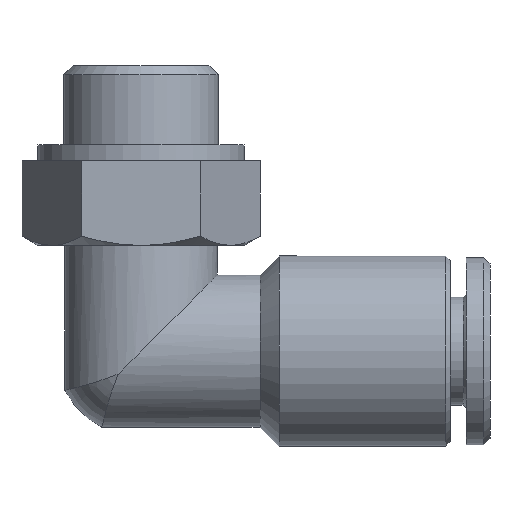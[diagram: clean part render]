
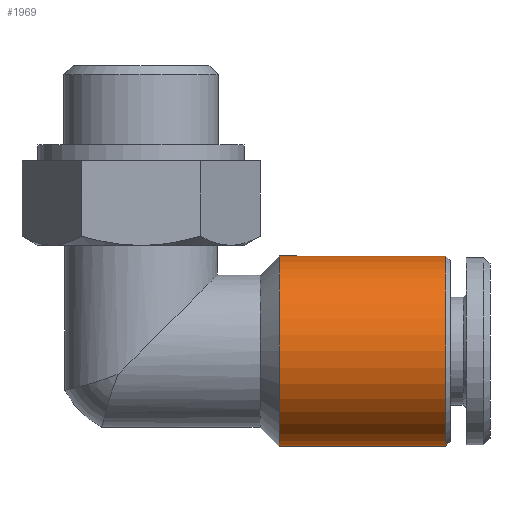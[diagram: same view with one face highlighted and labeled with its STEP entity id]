
A CAD part, front view. The second image highlights one B-rep face of the part: STEP entity #1969.
In plain terms, the highlighted cylindrical face has radius 6 mm (diameter 12 mm), a partial arc.
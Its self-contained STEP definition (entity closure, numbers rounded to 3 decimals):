
#53 = AXIS2_PLACEMENT_3D ( 'NONE', #462, #1694, #2003 ) ;
#68 = CARTESIAN_POINT ( 'NONE',  ( 19.2, 0., -6. ) ) ;
#161 = CYLINDRICAL_SURFACE ( 'NONE', #53, 6. ) ;
#262 = EDGE_CURVE ( 'NONE', #806, #1647, #271, .T. ) ;
#271 = LINE ( 'NONE', #1452, #1857 ) ;
#288 = DIRECTION ( 'NONE',  ( 0., 0., 1. ) ) ;
#318 = CARTESIAN_POINT ( 'NONE',  ( 8.7, 0., 0. ) ) ;
#357 = EDGE_LOOP ( 'NONE', ( #1070, #1889, #861, #1003 ) ) ;
#360 = CARTESIAN_POINT ( 'NONE',  ( 8.7, 0., 6. ) ) ;
#436 = CARTESIAN_POINT ( 'NONE',  ( 19.2, 0., 0. ) ) ;
#462 = CARTESIAN_POINT ( 'NONE',  ( 22., 0., 0. ) ) ;
#466 = DIRECTION ( 'NONE',  ( 0., 0., 1. ) ) ;
#578 = CIRCLE ( 'NONE', #1638, 6. ) ;
#625 = FACE_OUTER_BOUND ( 'NONE', #357, .T. ) ;
#780 = CARTESIAN_POINT ( 'NONE',  ( 8.7, 0., -6. ) ) ;
#806 = VERTEX_POINT ( 'NONE', #1396 ) ;
#861 = ORIENTED_EDGE ( 'NONE', *, *, #262, .T. ) ;
#937 = VERTEX_POINT ( 'NONE', #780 ) ;
#1003 = ORIENTED_EDGE ( 'NONE', *, *, #1970, .T. ) ;
#1038 = EDGE_CURVE ( 'NONE', #1216, #806, #1877, .T. ) ;
#1070 = ORIENTED_EDGE ( 'NONE', *, *, #1838, .F. ) ;
#1164 = LINE ( 'NONE', #1661, #1625 ) ;
#1216 = VERTEX_POINT ( 'NONE', #68 ) ;
#1350 = DIRECTION ( 'NONE',  ( -1., 0., 0. ) ) ;
#1383 = DIRECTION ( 'NONE',  ( 1., 0., 0. ) ) ;
#1396 = CARTESIAN_POINT ( 'NONE',  ( 19.2, 0., 6. ) ) ;
#1446 = DIRECTION ( 'NONE',  ( -1., 0., 0. ) ) ;
#1452 = CARTESIAN_POINT ( 'NONE',  ( 22., 0., 6. ) ) ;
#1625 = VECTOR ( 'NONE', #1819, 1000. ) ;
#1638 = AXIS2_PLACEMENT_3D ( 'NONE', #318, #1383, #466 ) ;
#1647 = VERTEX_POINT ( 'NONE', #360 ) ;
#1661 = CARTESIAN_POINT ( 'NONE',  ( 22., 0., -6. ) ) ;
#1694 = DIRECTION ( 'NONE',  ( -1., 0., 0. ) ) ;
#1819 = DIRECTION ( 'NONE',  ( -1., 0., 0. ) ) ;
#1838 = EDGE_CURVE ( 'NONE', #1216, #937, #1164, .T. ) ;
#1857 = VECTOR ( 'NONE', #1446, 1000. ) ;
#1877 = CIRCLE ( 'NONE', #1904, 6. ) ;
#1889 = ORIENTED_EDGE ( 'NONE', *, *, #1038, .T. ) ;
#1904 = AXIS2_PLACEMENT_3D ( 'NONE', #436, #1350, #288 ) ;
#1969 = ADVANCED_FACE ( 'NONE', ( #625 ), #161, .T. ) ;
#1970 = EDGE_CURVE ( 'NONE', #1647, #937, #578, .T. ) ;
#2003 = DIRECTION ( 'NONE',  ( 0., 0., 1. ) ) ;
